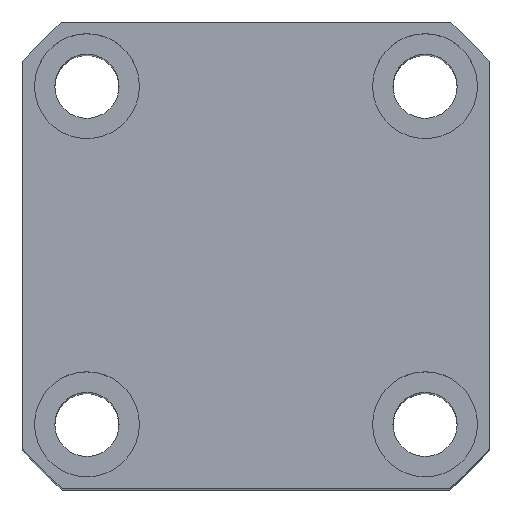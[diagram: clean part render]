
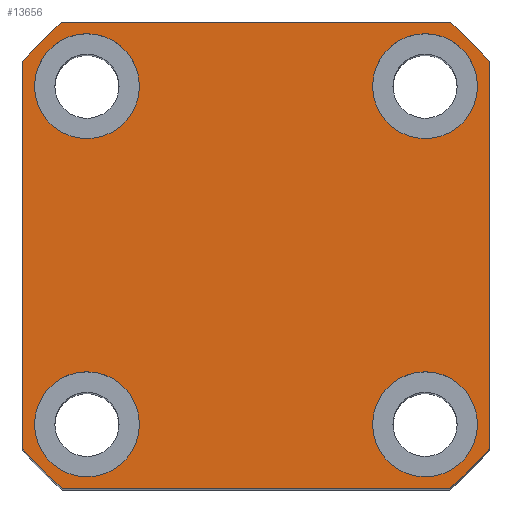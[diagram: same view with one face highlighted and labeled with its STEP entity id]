
A CAD part, top view. The second image highlights one B-rep face of the part: STEP entity #13656.
In plain terms, the highlighted planar face has unit normal (0, 0, 1).
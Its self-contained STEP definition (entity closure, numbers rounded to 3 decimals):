
#87 = ORIENTED_EDGE ( 'NONE', *, *, #12452, .T. ) ;
#213 = AXIS2_PLACEMENT_3D ( 'NONE', #15817, #17358, #6175 ) ;
#370 = CARTESIAN_POINT ( 'NONE',  ( 29., -29., 80. ) ) ;
#604 = EDGE_CURVE ( 'NONE', #10616, #8462, #9236, .T. ) ;
#1078 = VERTEX_POINT ( 'NONE', #12199 ) ;
#1139 = CIRCLE ( 'NONE', #7144, 9. ) ;
#1387 = EDGE_CURVE ( 'NONE', #14165, #1078, #3558, .T. ) ;
#1472 = AXIS2_PLACEMENT_3D ( 'NONE', #370, #17045, #11569 ) ;
#1631 = CARTESIAN_POINT ( 'NONE',  ( -33.226, -40., 80. ) ) ;
#1771 = DIRECTION ( 'NONE',  ( 0., 0., 1. ) ) ;
#1778 = DIRECTION ( 'NONE',  ( 0., -1., 0. ) ) ;
#1952 = CARTESIAN_POINT ( 'NONE',  ( -33.226, 40., 80. ) ) ;
#2095 = CARTESIAN_POINT ( 'NONE',  ( 0., 0., 80. ) ) ;
#2155 = DIRECTION ( 'NONE',  ( 1., 0., 0. ) ) ;
#2160 = CARTESIAN_POINT ( 'NONE',  ( 40., 33.226, 80. ) ) ;
#2304 = EDGE_LOOP ( 'NONE', ( #4061, #9327 ) ) ;
#2517 = EDGE_CURVE ( 'NONE', #14394, #15414, #1139, .T. ) ;
#2741 = DIRECTION ( 'NONE',  ( 1., 0., 0. ) ) ;
#2787 = DIRECTION ( 'NONE',  ( 0., 0., 1. ) ) ;
#3278 = ORIENTED_EDGE ( 'NONE', *, *, #12539, .T. ) ;
#3309 = CARTESIAN_POINT ( 'NONE',  ( -33.226, -40., 80. ) ) ;
#3478 = AXIS2_PLACEMENT_3D ( 'NONE', #15864, #17528, #2155 ) ;
#3558 = CIRCLE ( 'NONE', #8740, 9. ) ;
#3623 = FACE_BOUND ( 'NONE', #10854, .T. ) ;
#3850 = DIRECTION ( 'NONE',  ( 1., 0., 0. ) ) ;
#3855 = ORIENTED_EDGE ( 'NONE', *, *, #17006, .T. ) ;
#4061 = ORIENTED_EDGE ( 'NONE', *, *, #15511, .F. ) ;
#4101 = CARTESIAN_POINT ( 'NONE',  ( -29., -29., 80. ) ) ;
#4720 = VERTEX_POINT ( 'NONE', #12756 ) ;
#4722 = DIRECTION ( 'NONE',  ( 0., 0., 1. ) ) ;
#4737 = DIRECTION ( 'NONE',  ( -1., 0., 0. ) ) ;
#5011 = AXIS2_PLACEMENT_3D ( 'NONE', #8199, #5566, #15209 ) ;
#5093 = VERTEX_POINT ( 'NONE', #17818 ) ;
#5131 = CIRCLE ( 'NONE', #1472, 9. ) ;
#5565 = FACE_BOUND ( 'NONE', #9556, .T. ) ;
#5566 = DIRECTION ( 'NONE',  ( 0., 0., 1. ) ) ;
#5593 = ORIENTED_EDGE ( 'NONE', *, *, #604, .T. ) ;
#5788 = DIRECTION ( 'NONE',  ( 0., 0., 1. ) ) ;
#5803 = CARTESIAN_POINT ( 'NONE',  ( 38., 29., 80. ) ) ;
#5914 = CARTESIAN_POINT ( 'NONE',  ( 38., -29., 80. ) ) ;
#6175 = DIRECTION ( 'NONE',  ( 1., 0., 0. ) ) ;
#6239 = DIRECTION ( 'NONE',  ( 1., 0., 0. ) ) ;
#6957 = EDGE_CURVE ( 'NONE', #5093, #16052, #18085, .T. ) ;
#7114 = CIRCLE ( 'NONE', #13554, 52. ) ;
#7144 = AXIS2_PLACEMENT_3D ( 'NONE', #9775, #13939, #2741 ) ;
#7146 = VECTOR ( 'NONE', #1778, 1000. ) ;
#7181 = EDGE_CURVE ( 'NONE', #1078, #14165, #17882, .T. ) ;
#7310 = FACE_BOUND ( 'NONE', #2304, .T. ) ;
#7321 = EDGE_CURVE ( 'NONE', #10174, #4720, #13034, .T. ) ;
#7356 = CARTESIAN_POINT ( 'NONE',  ( 0., 0., 80. ) ) ;
#7452 = ORIENTED_EDGE ( 'NONE', *, *, #7634, .T. ) ;
#7633 = DIRECTION ( 'NONE',  ( 1., 0., 0. ) ) ;
#7634 = EDGE_CURVE ( 'NONE', #15444, #5093, #13714, .T. ) ;
#7895 = VERTEX_POINT ( 'NONE', #12492 ) ;
#7996 = VERTEX_POINT ( 'NONE', #5914 ) ;
#8199 = CARTESIAN_POINT ( 'NONE',  ( 0., 0., 80. ) ) ;
#8271 = ORIENTED_EDGE ( 'NONE', *, *, #2517, .F. ) ;
#8462 = VERTEX_POINT ( 'NONE', #3309 ) ;
#8597 = ORIENTED_EDGE ( 'NONE', *, *, #6957, .T. ) ;
#8699 = CARTESIAN_POINT ( 'NONE',  ( -29., 29., 80. ) ) ;
#8703 = CARTESIAN_POINT ( 'NONE',  ( -40., 33.226, 80. ) ) ;
#8704 = EDGE_CURVE ( 'NONE', #4720, #10174, #18096, .T. ) ;
#8740 = AXIS2_PLACEMENT_3D ( 'NONE', #8699, #5788, #15783 ) ;
#9091 = DIRECTION ( 'NONE',  ( 0., 1., 0. ) ) ;
#9153 = EDGE_LOOP ( 'NONE', ( #17456, #15366 ) ) ;
#9236 = CIRCLE ( 'NONE', #5011, 52. ) ;
#9327 = ORIENTED_EDGE ( 'NONE', *, *, #13261, .F. ) ;
#9427 = LINE ( 'NONE', #1631, #11582 ) ;
#9556 = EDGE_LOOP ( 'NONE', ( #14371, #16772 ) ) ;
#9657 = CARTESIAN_POINT ( 'NONE',  ( 20., 29., 80. ) ) ;
#9745 = CARTESIAN_POINT ( 'NONE',  ( -40., 33.226, 80. ) ) ;
#9775 = CARTESIAN_POINT ( 'NONE',  ( 29., 29., 80. ) ) ;
#9859 = AXIS2_PLACEMENT_3D ( 'NONE', #7356, #1771, #14329 ) ;
#10166 = DIRECTION ( 'NONE',  ( 1., 0., 0. ) ) ;
#10174 = VERTEX_POINT ( 'NONE', #12257 ) ;
#10233 = AXIS2_PLACEMENT_3D ( 'NONE', #2095, #14646, #7633 ) ;
#10358 = VERTEX_POINT ( 'NONE', #14093 ) ;
#10369 = LINE ( 'NONE', #1952, #13652 ) ;
#10392 = AXIS2_PLACEMENT_3D ( 'NONE', #15071, #10850, #3850 ) ;
#10460 = EDGE_CURVE ( 'NONE', #12102, #10616, #18059, .T. ) ;
#10496 = ORIENTED_EDGE ( 'NONE', *, *, #10460, .T. ) ;
#10515 = DIRECTION ( 'NONE',  ( 1., 0., 0. ) ) ;
#10616 = VERTEX_POINT ( 'NONE', #15258 ) ;
#10850 = DIRECTION ( 'NONE',  ( 0., 0., 1. ) ) ;
#10854 = EDGE_LOOP ( 'NONE', ( #16943, #8271 ) ) ;
#11503 = AXIS2_PLACEMENT_3D ( 'NONE', #16682, #2787, #15205 ) ;
#11569 = DIRECTION ( 'NONE',  ( 1., 0., 0. ) ) ;
#11582 = VECTOR ( 'NONE', #6239, 1000. ) ;
#11978 = EDGE_CURVE ( 'NONE', #15414, #14394, #13221, .T. ) ;
#12102 = VERTEX_POINT ( 'NONE', #9745 ) ;
#12199 = CARTESIAN_POINT ( 'NONE',  ( -20., 29., 80. ) ) ;
#12257 = CARTESIAN_POINT ( 'NONE',  ( -38., -29., 80. ) ) ;
#12347 = AXIS2_PLACEMENT_3D ( 'NONE', #14673, #4722, #10515 ) ;
#12452 = EDGE_CURVE ( 'NONE', #17476, #12102, #7114, .T. ) ;
#12454 = AXIS2_PLACEMENT_3D ( 'NONE', #4101, #13803, #12505 ) ;
#12492 = CARTESIAN_POINT ( 'NONE',  ( 20., -29., 80. ) ) ;
#12505 = DIRECTION ( 'NONE',  ( 1., 0., 0. ) ) ;
#12539 = EDGE_CURVE ( 'NONE', #16052, #17476, #10369, .T. ) ;
#12756 = CARTESIAN_POINT ( 'NONE',  ( -20., -29., 80. ) ) ;
#12815 = ORIENTED_EDGE ( 'NONE', *, *, #17567, .T. ) ;
#12916 = CARTESIAN_POINT ( 'NONE',  ( 0., 0., 80. ) ) ;
#13028 = DIRECTION ( 'NONE',  ( 0., 0., 1. ) ) ;
#13034 = CIRCLE ( 'NONE', #12454, 9. ) ;
#13221 = CIRCLE ( 'NONE', #10392, 9. ) ;
#13261 = EDGE_CURVE ( 'NONE', #7895, #7996, #5131, .T. ) ;
#13554 = AXIS2_PLACEMENT_3D ( 'NONE', #12916, #13028, #10166 ) ;
#13652 = VECTOR ( 'NONE', #4737, 1000. ) ;
#13656 = ADVANCED_FACE ( 'NONE', ( #7310, #15629, #5565, #3623, #18027 ), #14265, .T. ) ;
#13714 = LINE ( 'NONE', #2160, #17008 ) ;
#13803 = DIRECTION ( 'NONE',  ( 0., 0., 1. ) ) ;
#13939 = DIRECTION ( 'NONE',  ( 0., 0., 1. ) ) ;
#14093 = CARTESIAN_POINT ( 'NONE',  ( 33.226, -40., 80. ) ) ;
#14165 = VERTEX_POINT ( 'NONE', #17510 ) ;
#14265 = PLANE ( 'NONE',  #9859 ) ;
#14329 = DIRECTION ( 'NONE',  ( 1., 0., 0. ) ) ;
#14371 = ORIENTED_EDGE ( 'NONE', *, *, #7181, .F. ) ;
#14394 = VERTEX_POINT ( 'NONE', #9657 ) ;
#14459 = CIRCLE ( 'NONE', #213, 52. ) ;
#14646 = DIRECTION ( 'NONE',  ( 0., 0., 1. ) ) ;
#14673 = CARTESIAN_POINT ( 'NONE',  ( -29., -29., 80. ) ) ;
#15059 = CARTESIAN_POINT ( 'NONE',  ( 33.226, 40., 80. ) ) ;
#15071 = CARTESIAN_POINT ( 'NONE',  ( 29., 29., 80. ) ) ;
#15205 = DIRECTION ( 'NONE',  ( 1., 0., 0. ) ) ;
#15209 = DIRECTION ( 'NONE',  ( 1., 0., 0. ) ) ;
#15258 = CARTESIAN_POINT ( 'NONE',  ( -40., -33.226, 80. ) ) ;
#15264 = CARTESIAN_POINT ( 'NONE',  ( -33.226, 40., 80. ) ) ;
#15366 = ORIENTED_EDGE ( 'NONE', *, *, #7321, .F. ) ;
#15414 = VERTEX_POINT ( 'NONE', #5803 ) ;
#15444 = VERTEX_POINT ( 'NONE', #16680 ) ;
#15511 = EDGE_CURVE ( 'NONE', #7996, #7895, #17781, .T. ) ;
#15629 = FACE_BOUND ( 'NONE', #9153, .T. ) ;
#15783 = DIRECTION ( 'NONE',  ( 1., 0., 0. ) ) ;
#15817 = CARTESIAN_POINT ( 'NONE',  ( 0., 0., 80. ) ) ;
#15864 = CARTESIAN_POINT ( 'NONE',  ( 29., -29., 80. ) ) ;
#16052 = VERTEX_POINT ( 'NONE', #15059 ) ;
#16680 = CARTESIAN_POINT ( 'NONE',  ( 40., -33.226, 80. ) ) ;
#16682 = CARTESIAN_POINT ( 'NONE',  ( -29., 29., 80. ) ) ;
#16772 = ORIENTED_EDGE ( 'NONE', *, *, #1387, .F. ) ;
#16943 = ORIENTED_EDGE ( 'NONE', *, *, #11978, .F. ) ;
#17006 = EDGE_CURVE ( 'NONE', #10358, #15444, #14459, .T. ) ;
#17008 = VECTOR ( 'NONE', #9091, 1000. ) ;
#17045 = DIRECTION ( 'NONE',  ( 0., 0., 1. ) ) ;
#17358 = DIRECTION ( 'NONE',  ( 0., 0., 1. ) ) ;
#17456 = ORIENTED_EDGE ( 'NONE', *, *, #8704, .F. ) ;
#17476 = VERTEX_POINT ( 'NONE', #15264 ) ;
#17510 = CARTESIAN_POINT ( 'NONE',  ( -38., 29., 80. ) ) ;
#17528 = DIRECTION ( 'NONE',  ( 0., 0., 1. ) ) ;
#17567 = EDGE_CURVE ( 'NONE', #8462, #10358, #9427, .T. ) ;
#17781 = CIRCLE ( 'NONE', #3478, 9. ) ;
#17818 = CARTESIAN_POINT ( 'NONE',  ( 40., 33.226, 80. ) ) ;
#17882 = CIRCLE ( 'NONE', #11503, 9. ) ;
#18027 = FACE_OUTER_BOUND ( 'NONE', #18035, .T. ) ;
#18035 = EDGE_LOOP ( 'NONE', ( #8597, #3278, #87, #10496, #5593, #12815, #3855, #7452 ) ) ;
#18059 = LINE ( 'NONE', #8703, #7146 ) ;
#18085 = CIRCLE ( 'NONE', #10233, 52. ) ;
#18096 = CIRCLE ( 'NONE', #12347, 9. ) ;
